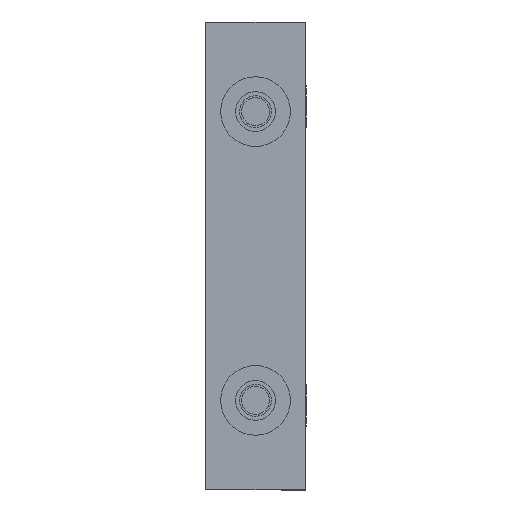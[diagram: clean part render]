
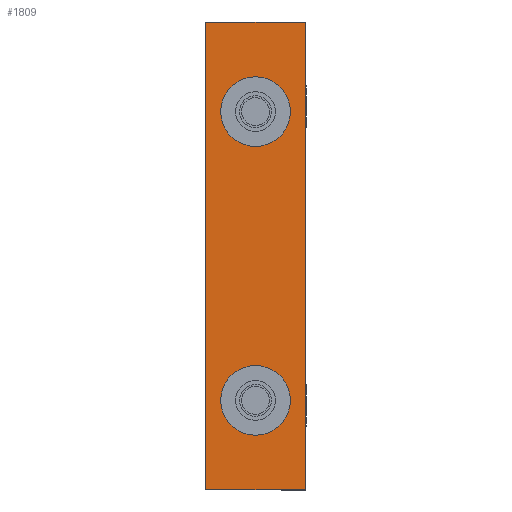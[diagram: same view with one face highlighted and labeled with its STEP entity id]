
A CAD part, front view. The second image highlights one B-rep face of the part: STEP entity #1809.
In plain terms, the highlighted planar face has unit normal (0, -1, 0).
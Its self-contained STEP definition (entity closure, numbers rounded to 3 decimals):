
#90=FACE_BOUND('',#381,.T.);
#91=FACE_BOUND('',#382,.T.);
#167=PLANE('',#1970);
#267=FACE_OUTER_BOUND('',#380,.T.);
#380=EDGE_LOOP('',(#1669,#1670,#1671,#1672));
#381=EDGE_LOOP('',(#1673));
#382=EDGE_LOOP('',(#1674));
#581=LINE('',#3100,#775);
#582=LINE('',#3103,#776);
#583=LINE('',#3105,#777);
#584=LINE('',#3106,#778);
#775=VECTOR('',#2364,10.);
#776=VECTOR('',#2367,10.);
#777=VECTOR('',#2368,10.);
#778=VECTOR('',#2369,10.);
#796=CIRCLE('',#1962,17.5);
#798=CIRCLE('',#1966,17.5);
#952=VERTEX_POINT('',#3075);
#954=VERTEX_POINT('',#3082);
#959=VERTEX_POINT('',#3096);
#960=VERTEX_POINT('',#3098);
#961=VERTEX_POINT('',#3102);
#962=VERTEX_POINT('',#3104);
#1191=EDGE_CURVE('',#952,#952,#796,.T.);
#1194=EDGE_CURVE('',#954,#954,#798,.T.);
#1201=EDGE_CURVE('',#959,#960,#581,.T.);
#1202=EDGE_CURVE('',#959,#961,#582,.T.);
#1203=EDGE_CURVE('',#962,#960,#583,.T.);
#1204=EDGE_CURVE('',#961,#962,#584,.T.);
#1669=ORIENTED_EDGE('',*,*,#1202,.F.);
#1670=ORIENTED_EDGE('',*,*,#1201,.T.);
#1671=ORIENTED_EDGE('',*,*,#1203,.F.);
#1672=ORIENTED_EDGE('',*,*,#1204,.F.);
#1673=ORIENTED_EDGE('',*,*,#1191,.T.);
#1674=ORIENTED_EDGE('',*,*,#1194,.T.);
#1809=ADVANCED_FACE('',(#267,#90,#91),#167,.T.);
#1962=AXIS2_PLACEMENT_3D('',#3077,#2341,#2342);
#1966=AXIS2_PLACEMENT_3D('',#3084,#2350,#2351);
#1970=AXIS2_PLACEMENT_3D('',#3101,#2365,#2366);
#2341=DIRECTION('center_axis',(0.,1.,0.));
#2342=DIRECTION('ref_axis',(-1.,0.,0.));
#2350=DIRECTION('center_axis',(0.,1.,0.));
#2351=DIRECTION('ref_axis',(-1.,0.,0.));
#2364=DIRECTION('',(1.,0.,0.));
#2365=DIRECTION('center_axis',(0.,-1.,0.));
#2366=DIRECTION('ref_axis',(0.,0.,-1.));
#2367=DIRECTION('',(0.,0.,1.));
#2368=DIRECTION('',(0.,0.,-1.));
#2369=DIRECTION('',(1.,0.,0.));
#3075=CARTESIAN_POINT('',(42.5,0.,-45.));
#3077=CARTESIAN_POINT('Origin',(25.,0.,-45.));
#3082=CARTESIAN_POINT('',(42.5,0.,-190.));
#3084=CARTESIAN_POINT('Origin',(25.,0.,-190.));
#3096=CARTESIAN_POINT('',(0.,0.,-235.));
#3098=CARTESIAN_POINT('',(50.,0.,-235.));
#3100=CARTESIAN_POINT('',(0.,0.,-235.));
#3101=CARTESIAN_POINT('Origin',(0.,0.,0.));
#3102=CARTESIAN_POINT('',(0.,0.,0.));
#3103=CARTESIAN_POINT('',(0.,0.,-235.));
#3104=CARTESIAN_POINT('',(50.,0.,0.));
#3105=CARTESIAN_POINT('',(50.,0.,-235.));
#3106=CARTESIAN_POINT('',(0.,0.,0.));
